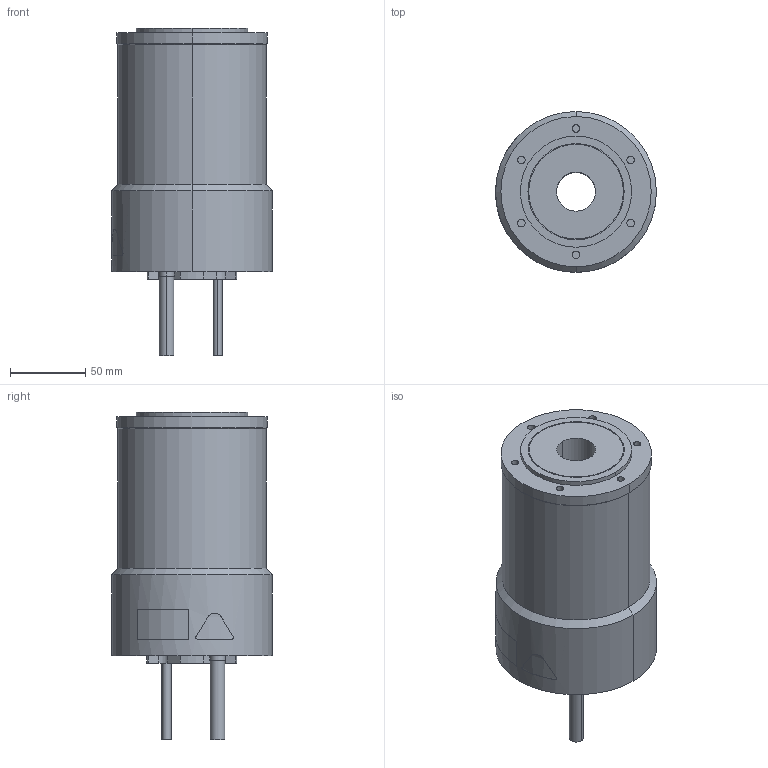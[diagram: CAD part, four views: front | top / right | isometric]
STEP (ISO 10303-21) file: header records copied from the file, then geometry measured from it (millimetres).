
FILE_DESCRIPTION (( 'STEP AP203' ), '1' );
FILE_NAME ('sgm7d_08k_c5_.STEP', '2016-02-23T02:40:51', ( '' ), ( '' ), 'SwSTEP 2.0', 'SolidWorks 2010', '' );
FILE_SCHEMA (( 'CONFIG_CONTROL_DESIGN' ));
Length unit declared in the file: millimetre
Products named in the file (1): sgm7d_08k_c5_
Bounding box: 107.04 x 107 x 218 mm (x, y, z)
Volume: 1227099 mm3; surface area: 88203.4 mm2
Topology: 1 solids, 1 shells, 123 faces, 277 edges, 182 vertices
Faces by surface type: cylinder 71, plane 43, bspline 5, cone 4
Entity records: 3932 total; most frequent: CARTESIAN_POINT 998, DIRECTION 643, ORIENTED_EDGE 554, EDGE_CURVE 277, AXIS2_PLACEMENT_3D 263, VERTEX_POINT 182, EDGE_LOOP 151, CIRCLE 144
